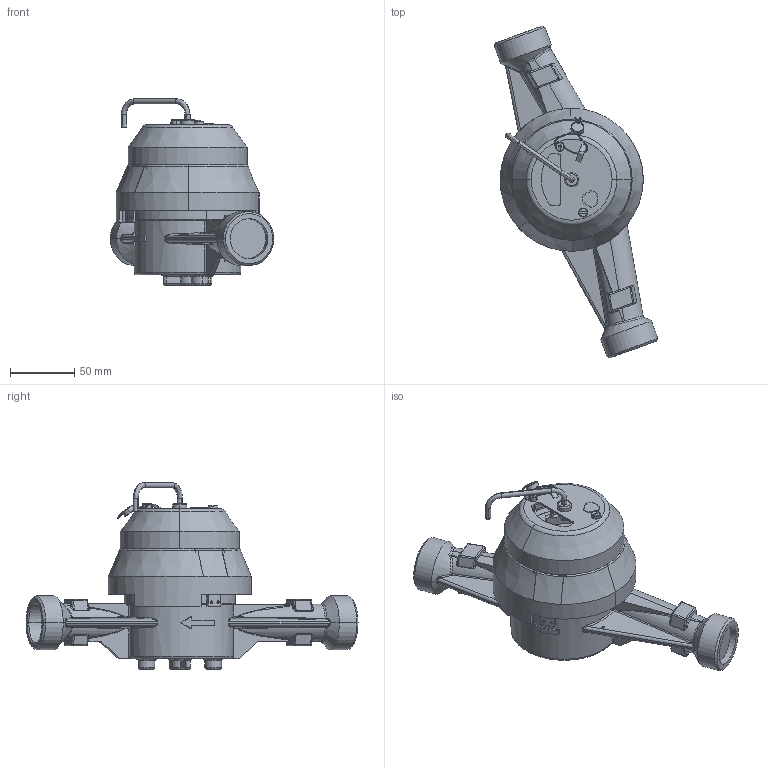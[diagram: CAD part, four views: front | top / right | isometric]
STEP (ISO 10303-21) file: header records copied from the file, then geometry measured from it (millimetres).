
FILE_DESCRIPTION (( 'STEP AP214' ), '1' );
FILE_NAME ('JS130-3,5-NC.STEP', '2025-07-31T09:50:53', ( '' ), ( '' ), 'SwSTEP 2.0', 'SolidWorks 2019', '' );
FILE_SCHEMA (( 'AUTOMOTIVE_DESIGN' ));
Length unit declared in the file: millimetre
Products named in the file (1): JS130-3,5-NC
Bounding box: 127.08 x 257.67 x 144.67 mm (x, y, z)
Volume: 675545.4 mm3; surface area: 157464.8 mm2
Topology: 16 solids, 21 shells, 1011 faces, 2617 edges, 1627 vertices
Faces by surface type: plane 445, cylinder 316, bspline 84, torus 73, cone 69, sphere 24
Entity records: 47842 total; most frequent: CARTESIAN_POINT 12617, ORIENTED_EDGE 5178, DIRECTION 4906, EDGE_CURVE 2589, AXIS2_PLACEMENT_3D 1796, VERTEX_POINT 1627, VECTOR 1314, LINE 1314
